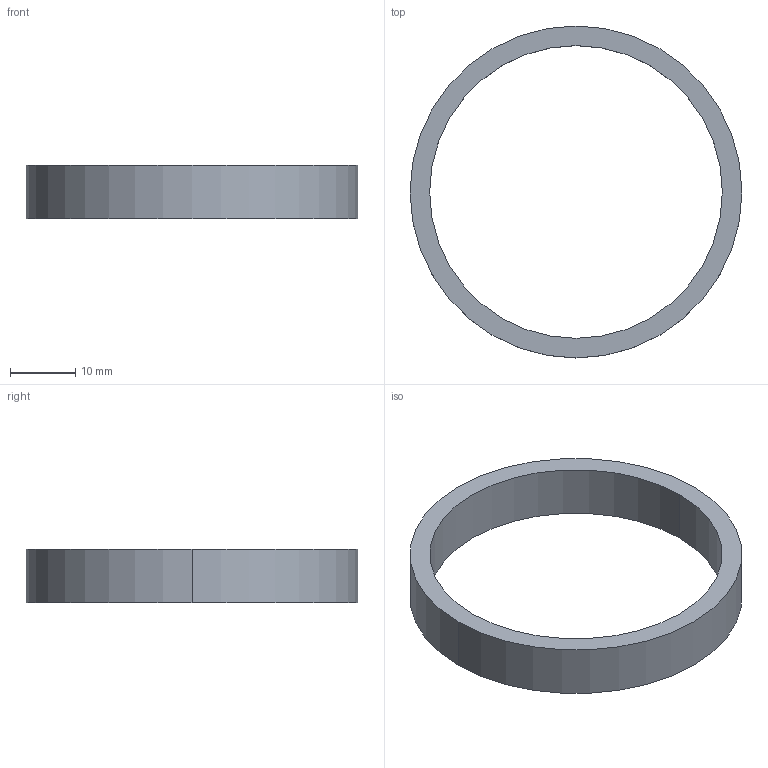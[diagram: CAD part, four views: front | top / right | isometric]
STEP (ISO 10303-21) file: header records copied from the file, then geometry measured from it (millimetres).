
FILE_DESCRIPTION (( 'STEP AP214' ), '1' );
FILE_NAME ('P-00196 - Motor Mount Plate Bearing Spacer - 2.1.6.STEP', '2026-06-12T21:51:41', ( '' ), ( '' ), 'SwSTEP 2.0', 'SolidWorks 2023', '' );
FILE_SCHEMA (( 'AUTOMOTIVE_DESIGN' ));
Length unit declared in the file: inch
Products named in the file (1): P-00196 - Motor Mount Plate Bearing Spacer - 2.1.6
Bounding box: 50.8 x 50.8 x 8.15 mm (x, y, z)
Volume: 3671.6 mm3; surface area: 3348.7 mm2
Topology: 1 solids, 1 shells, 6 faces, 12 edges, 8 vertices
Faces by surface type: cylinder 4, plane 2
Entity records: 195 total; most frequent: DIRECTION 34, CARTESIAN_POINT 27, ORIENTED_EDGE 24, AXIS2_PLACEMENT_3D 15, EDGE_CURVE 12, VERTEX_POINT 8, CIRCLE 8, EDGE_LOOP 8
